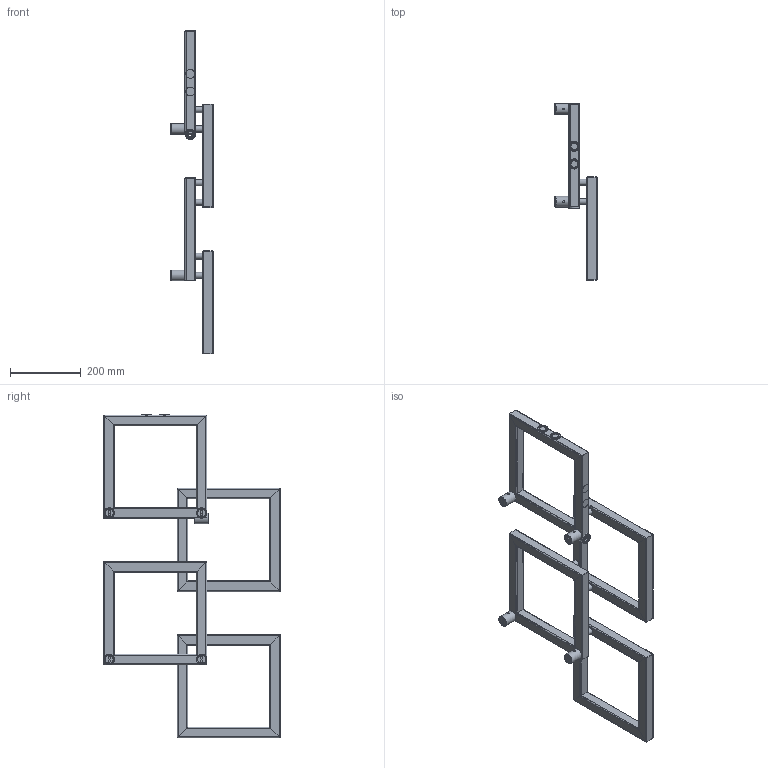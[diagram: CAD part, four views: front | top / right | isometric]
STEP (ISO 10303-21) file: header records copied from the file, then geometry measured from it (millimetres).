
FILE_DESCRIPTION( ( 'Unknown' ), '1' );
FILE_NAME( 'V:/DESIGN PROGRAM/LOCO mini/STP/LOCO 4 mini.stp', 'Unknown', ( 'Unknown' ), ( 'Unknown' ), 'PSStep 10.1', 'Unknown', ' ' );
FILE_SCHEMA( ( 'AUTOMOTIVE_DESIGN { 1 0 10303 214 1 1 1 1 }' ) );
Length unit declared in the file: millimetre
Products named in the file (28): Mocowanie L40; Ramka 1; Ramka 3; Assem1; Ramka 2; czêœæ 3-oa0; czêœæ 1-oa1; czêœæ 5; czêœæ 6; MOCOWANIE L40-01; MOCOWANIE FASOLKA; MOCOWANIE L40-03; czêœæ 3; czêœæ 1; czêœæ 2; czêœæ 4; czêœæ 3-oa8; czêœæ 3-oa9; czêœæ 1-oa10; czêœæ 2-oa11; ｳｹcznik ; ｳｹcznik -oa2; ｳｹcznik -oa3; ｳｹcznik -oa4; ｳｹcznik -oa5; ｳｹcznik -oa6; Zaslepka fi 30 z gwintem ; Zaslepka fi 30 z gwintem -oa7
Bounding box: 120 x 500 x 918 mm (x, y, z)
Volume: 1859277.4 mm3; surface area: 2425757.9 mm2
Topology: 74 solids, 74 shells, 1032 faces, 2634 edges, 1760 vertices
Faces by surface type: plane 526, cylinder 468, cone 30, torus 8
Full cylindrical faces by diameter (mm): 4.917 x6, 12.5 x12, 15.5 x12, 16.3 x12, 16.5 x28, 17 x6, 17.2 x12, 18.631 x4, 20 x6, 22 x6, 22.7 x6, 23 x6, 25 x4, 25.25 x6, 29 x4, 30 x6
Entity records: 12413 total; most frequent: CARTESIAN_POINT 1761, DIRECTION 1700, ORIENTED_EDGE 1422, EDGE_CURVE 711, AXIS2_PLACEMENT_3D 650, VERTEX_POINT 507, EDGE_LOOP 452, LINE 400
